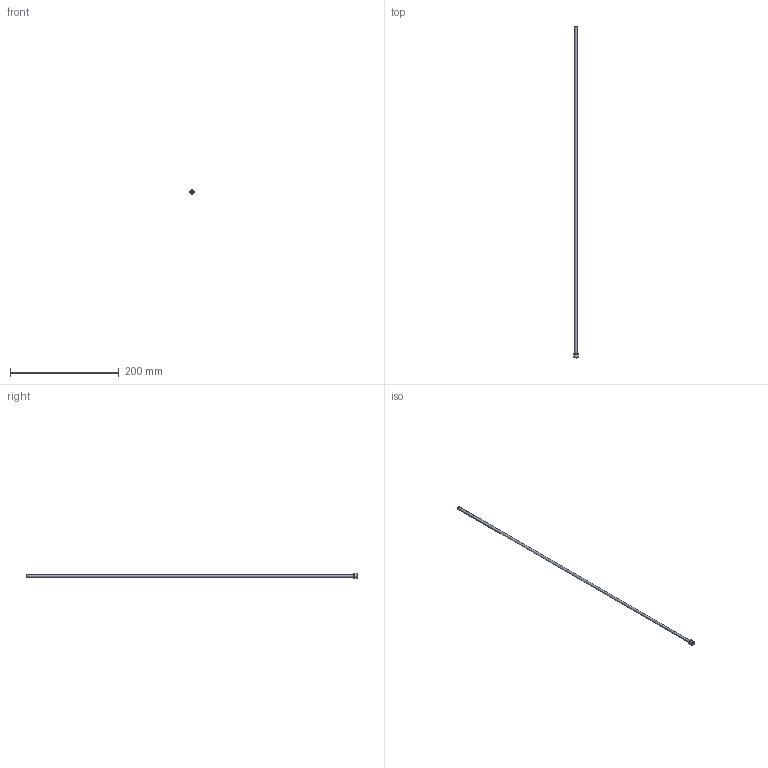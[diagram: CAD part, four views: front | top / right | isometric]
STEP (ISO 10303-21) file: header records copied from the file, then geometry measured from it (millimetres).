
FILE_DESCRIPTION(/* description */ (''),/* implementation_level */ '2;1');
FILE_NAME(/* name */ 'C:/Users/drich/Desktop/JHF187T-24 v1.step',/* time_stamp */ '2020-01-02T20:03:08-06:00',/* author */ (''),/* organization */ (''),/* preprocessor_version */ 'ST-DEVELOPER v18',/* originating_system */ 'Autodesk Translation Framework v8.12.0.6',/* authorisation */ '');
FILE_SCHEMA (('AUTOMOTIVE_DESIGN { 1 0 10303 214 3 1 1 }'));
Length unit declared in the file: inch
Products named in the file (1): JHF187T-24
Bounding box: 7.98 x 609.6 x 7.98 mm (x, y, z)
Volume: 2411.9 mm3; surface area: 17354 mm2
Topology: 1 solids, 1 shells, 10 faces, 24 edges, 18 vertices
Faces by surface type: cylinder 4, plane 4, cone 1, torus 1
Full cylindrical faces by diameter (mm): 4.242 x1, 4.75 x1, 7.846 x1, 7.976 x1
Entity records: 354 total; most frequent: DIRECTION 65, CARTESIAN_POINT 53, ORIENTED_EDGE 48, AXIS2_PLACEMENT_3D 30, EDGE_CURVE 24, CIRCLE 19, VERTEX_POINT 18, EDGE_LOOP 14
